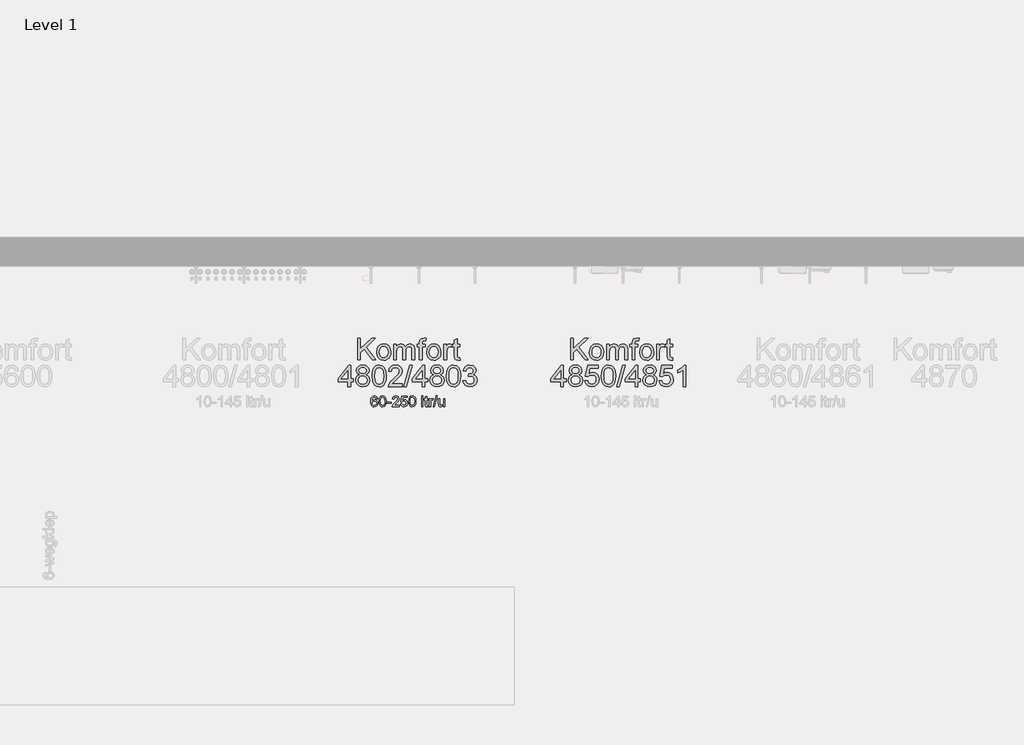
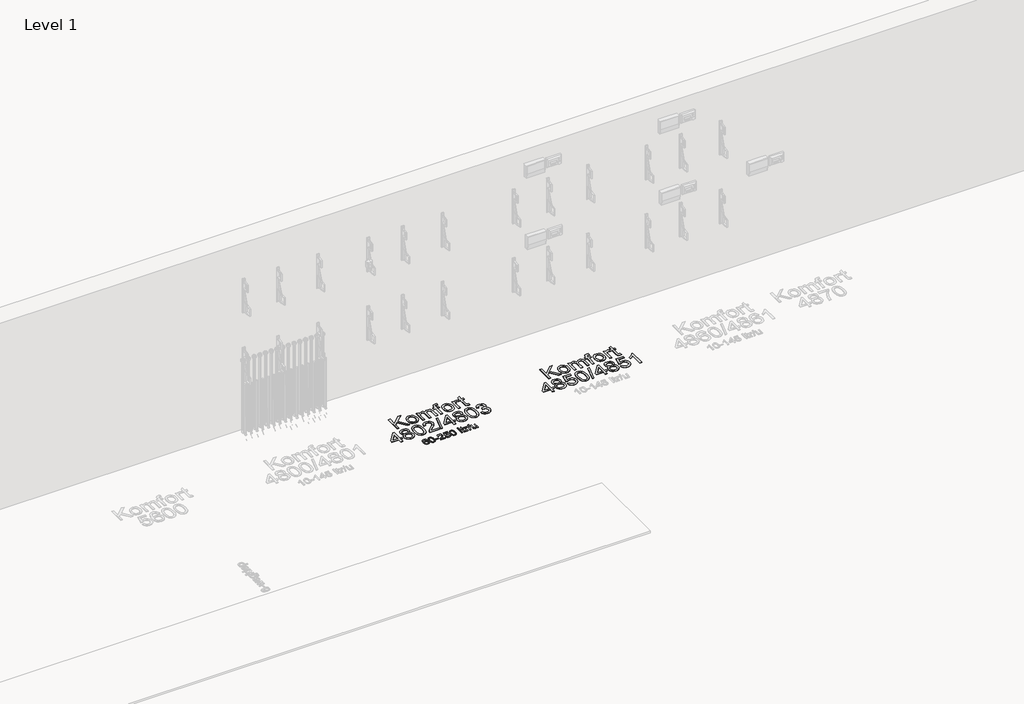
# One storey, part 23 of 34: 3 proxies.
"""IFC4 building model written with IfcOpenShell, lengths in millimetres."""

import ifcopenshell
import ifcopenshell.guid

model = None  # the IFC model being written
_history = None  # IfcOwnerHistory: only IFC2X3 demands one
_inside = {}  # id of a spatial element -> (the spatial element, [elements in it])
_under = {}  # id of a project, library or spatial element -> (it, [spatial elements below it])
_declared = {}  # id of a project -> (the project, [libraries it declares])
_typed = {}  # id of a type object -> (the type object, [elements of that type])
_made_of = {}  # id of a material, layer set ... -> (it, [elements and type objects made of it])


def new_model(schema):
    """Start an empty IFC model of exactly this schema.

    Asked for "IFC4X3", IfcOpenShell would pick the latest addendum, in which some entities
    have other attributes; the version numbers below select the first issue.
    IFC2X3 requires an IfcOwnerHistory on every rooted entity: one is made here for all.
    """
    global model, _history
    if schema == "IFC4X3":
        model = ifcopenshell.file(schema_version=(4, 3, 0, 0))
    else:
        model = ifcopenshell.file(schema=schema)
    _inside.clear()
    _under.clear()
    _declared.clear()
    _typed.clear()
    _made_of.clear()
    _history = None
    if model.schema == "IFC2X3":
        org = make("IfcOrganization", Name="unknown")
        user = make(
            "IfcPersonAndOrganization",
            ThePerson=make("IfcPerson", FamilyName="unknown"),
            TheOrganization=org,
        )
        app = make(
            "IfcApplication",
            ApplicationDeveloper=org,
            Version="unknown",
            ApplicationFullName="unknown",
            ApplicationIdentifier="unknown",
        )
        _history = make(
            "IfcOwnerHistory",
            OwningUser=user,
            OwningApplication=app,
            ChangeAction="ADDED",
            CreationDate=0,
        )
    return model


def make(cls, **values):
    """One entity of the class cls with the attributes given. An attribute that is None is left unset."""
    return model.create_entity(
        cls, **{name: value for name, value in values.items() if value is not None}
    )


def rooted(cls, **values):
    """An entity with a GlobalId (a new one), such as an element, a storey or a relation."""
    return make(cls, GlobalId=ifcopenshell.guid.new(), OwnerHistory=_history, **values)


def si_unit(unit_type, name, prefix=None):
    """IfcSIUnit, for example si_unit("LENGTHUNIT", "METRE", prefix="MILLI")."""
    return make("IfcSIUnit", UnitType=unit_type, Prefix=prefix, Name=name)


def assignment(units):
    """IfcUnitAssignment: the units of a project."""
    return None if units is None else make("IfcUnitAssignment", Units=units)


def point(xyz):
    """IfcCartesianPoint."""
    return None if xyz is None else make("IfcCartesianPoint", Coordinates=xyz)


def direction(xyz):
    """IfcDirection."""
    return None if xyz is None else make("IfcDirection", DirectionRatios=xyz)


def frame(location, z_axis=None, x_axis=None):
    """IfcAxis2Placement3D, a coordinate frame: its origin and axes. An axis left out is left unset."""
    return make(
        "IfcAxis2Placement3D",
        Location=point(location),
        Axis=direction(z_axis),
        RefDirection=direction(x_axis),
    )


def origin():
    """The frame at (0, 0, 0) with its axes left unset."""
    return frame((0.0, 0.0, 0.0))


def origin_with_axes():
    """The frame at (0, 0, 0) with the z axis (0, 0, 1) and the x axis (1, 0, 0) written out."""
    return frame((0.0, 0.0, 0.0), z_axis=(0.0, 0.0, 1.0), x_axis=(1.0, 0.0, 0.0))


def place(relative_to, where):
    """IfcLocalPlacement: puts the frame where relative to a parent placement (None: the world)."""
    return make(
        "IfcLocalPlacement", PlacementRelTo=relative_to, RelativePlacement=where
    )


def context(
    kind, dimensions, precision=None, world=None, true_north=None, identifier=None
):
    """IfcGeometricRepresentationContext, for example the 3D "Model" context."""
    return make(
        "IfcGeometricRepresentationContext",
        ContextIdentifier=identifier,
        ContextType=kind,
        CoordinateSpaceDimension=dimensions,
        Precision=precision,
        WorldCoordinateSystem=world,
        TrueNorth=true_north,
    )


def project(units=None, contexts=None):
    """IfcProject with its units and contexts."""
    return rooted(
        "IfcProject",
        Name="project",
        RepresentationContexts=contexts,
        UnitsInContext=assignment(units),
    )


def spatial(cls, under=None, at=None, **own):
    """A site, building, storey or space (cls), placed at a placement, below another one or the project."""
    s = rooted(cls, ObjectPlacement=at, **own)
    if under is not None:
        _under.setdefault(under.id(), (under, []))[1].append(s)
    return s


def polyline(points):
    """IfcPolyline through the points."""
    return make("IfcPolyline", Points=[point(p) for p in points])


def outline(outer, holes=None, kind="AREA"):
    """IfcArbitraryClosedProfileDef: a profile drawn as a closed curve; with holes, ...WithVoids."""
    if holes is None:
        return make("IfcArbitraryClosedProfileDef", ProfileType=kind, OuterCurve=outer)
    return make(
        "IfcArbitraryProfileDefWithVoids",
        ProfileType=kind,
        OuterCurve=outer,
        InnerCurves=holes,
    )


def extrude(swept, where, along, depth):
    """IfcExtrudedAreaSolid: the profile swept, set in the frame where, extruded along a direction by depth."""
    return make(
        "IfcExtrudedAreaSolid",
        SweptArea=swept,
        Position=where,
        ExtrudedDirection=direction(along),
        Depth=depth,
    )


def shape(context_of_items, identifier, shape_type, items):
    """IfcShapeRepresentation: the items that make up one representation, for example the "Body"."""
    return make(
        "IfcShapeRepresentation",
        ContextOfItems=context_of_items,
        RepresentationIdentifier=identifier,
        RepresentationType=shape_type,
        Items=items,
    )


def made_of(thing, what):
    """Note that an element or type object is made of a material, layer set ...; save() writes the relation."""
    if what is not None:
        _made_of.setdefault(what.id(), (what, []))[1].append(thing)
    return thing


def element(
    cls,
    number,
    at=None,
    inside=None,
    cuts=None,
    type_object=None,
    material=None,
    context=None,
    identifier="Body",
    shape_type=None,
    held_by="IfcProductDefinitionShape",
    body=None,
    shapes=None,
    **own,
):
    """One element of the class cls, such as IfcWall. Its Tag is "e" and its number.

    at: its placement. inside: the storey or other place that contains it. cuts: it is an
    opening in that element (IfcRelVoidsElement). A single representation is given by context,
    identifier, shape_type and body (its items); several are given by shapes. held_by: the class
    of the entity that holds the representations. save() writes the other relations.
    """
    e = rooted(cls, Tag="e%d" % number, ObjectPlacement=at, **own)
    if body is not None:
        shapes = [shape(context, identifier, shape_type, body)]
    if shapes is not None:
        e.Representation = make(held_by, Representations=shapes)
    if inside is not None:
        _inside.setdefault(inside.id(), (inside, []))[1].append(e)
    if cuts is not None:
        rooted(
            "IfcRelVoidsElement", RelatingBuildingElement=cuts, RelatedOpeningElement=e
        )
    if type_object is not None:
        _typed.setdefault(type_object.id(), (type_object, []))[1].append(e)
    return made_of(e, material)


def aggregate(whole, parts):
    """IfcRelAggregates: a whole, such as a stair, and the parts it consists of."""
    return rooted("IfcRelAggregates", RelatingObject=whole, RelatedObjects=parts)


def save(model, path):
    """Write the relations noted so far, then the file.

    IfcRelAggregates (storeys below a building ...), IfcRelContainedInSpatialStructure (elements
    in a storey), IfcRelDefinesByType, IfcRelAssociatesMaterial and IfcRelDeclares: one each for
    every whole, place, type object, material and project.
    """
    for whole, parts in _under.values():
        aggregate(whole, parts)
    for where, things in _inside.values():
        rooted(
            "IfcRelContainedInSpatialStructure",
            RelatedElements=things,
            RelatingStructure=where,
        )
    for kind, things in _typed.values():
        rooted("IfcRelDefinesByType", RelatedObjects=things, RelatingType=kind)
    for what, things in _made_of.values():
        rooted("IfcRelAssociatesMaterial", RelatedObjects=things, RelatingMaterial=what)
    for by, libraries in _declared.values():
        rooted("IfcRelDeclares", RelatingContext=by, RelatedDefinitions=libraries)
    model.write(path)


model = new_model("IFC4")

# Units and contexts
model_context = context("Model", 3, world=origin())
ifc_project = project(units=[si_unit("LENGTHUNIT", "METRE", prefix="MILLI")], contexts=[model_context])

# Site, building, storey
site = spatial("IfcSite", under=ifc_project)
building = spatial("IfcBuilding", under=site)
storey = spatial("IfcBuildingStorey", under=building, Name="Level 1", Elevation=0.0)

# Proxies
placement = place(None, origin())
element("IfcBuildingElementProxy", 1, Name="DN", ObjectType="DN", at=placement, inside=storey, context=model_context, shape_type="SweptSolid", body=[
    extrude(outline(polyline([(-9289.8719097, 6682.2887399), (-9299.1026789, 6681.1348937), (-9302.6002751, 6688.833211), (-9311.8490732, 6692.6733553), (-9320.1784001, 6690.4377784), (-9326.4794818, 6682.0453505), (-9329.1026789, 6665.5940284), (-9320.9626549, 6672.958812), (-9310.8755155, 6675.365663), (-9302.3478712, 6673.7205308), (-9295.1904193, 6668.7851341), (-9290.3361525, 6661.2445692), (-9288.7180636, 6651.7839322), (-9291.7649386, 6639.0465524), (-9300.148352, 6630.0321293), (-9312.2457078, 6626.9041245), (-9322.7182138, 6628.9774418), (-9331.0588087, 6635.1973937), (-9336.5147883, 6646.176961), (-9338.3334482, 6662.5291245), (-9336.3142174, 6680.9140404), (-9330.2565251, 6693.4846534), (-9321.9857919, 6699.7992567), (-9311.2721501, 6701.9041245), (-9296.6868136, 6696.693788), (-9289.8719097, 6682.2887399)]), holes=[polyline([(-9329.1026789, 6651.928163), (-9326.9662607, 6643.9323697), (-9321.2871741, 6638.1270812), (-9312.9668616, 6636.1348937), (-9302.086453, 6640.2634995), (-9297.9488328, 6651.4774418), (-9302.0323664, 6662.2136197), (-9313.3454674, 6666.1348937), (-9324.5143376, 6662.2136197), (-9329.1026789, 6651.928163)])]), origin_with_axes(), (0.0, 0.0, 1.0), 5.0),
    extrude(outline(polyline([(-9280.6411405, 6664.3860957), (-9277.9277991, 6685.6330909), (-9269.8689049, 6697.8836918), (-9256.4103712, 6701.9041245), (-9245.6291212, 6699.5243168), (-9238.1832078, 6692.6643409), (-9233.8562847, 6681.7388601), (-9232.179602, 6664.3860957), (-9234.8659001, 6643.2292447), (-9242.8977511, 6630.9516005), (-9256.4103712, 6626.9041245), (-9266.0017174, 6628.661937), (-9273.2853712, 6633.9353745), (-9278.8021982, 6646.4248577), (-9280.6411405, 6664.3860957)]), holes=[polyline([(-9271.4103712, 6664.4041245), (-9270.3286405, 6649.8841425), (-9267.0834482, 6641.4804466), (-9256.4103712, 6636.1348937), (-9245.7372943, 6641.4984755), (-9242.492102, 6649.9066786), (-9241.4103712, 6664.4041245), (-9245.5930636, 6687.0663841), (-9256.5185443, 6692.6733553), (-9266.9392174, 6687.7334514), (-9270.2925828, 6678.7370572), (-9271.4103712, 6664.4041245)])]), origin_with_axes(), (0.0, 0.0, 1.0), 5.0),
    extrude(outline(polyline([(-9226.4103712, 6649.9810476), (-9226.4103712, 6659.2118168), (-9197.5642174, 6659.2118168), (-9197.5642174, 6649.9810476), (-9226.4103712, 6649.9810476)])), origin_with_axes(), (0.0, 0.0, 1.0), 5.0),
    extrude(outline(polyline([(-9142.179602, 6637.2887399), (-9142.179602, 6628.0579707), (-9190.6411405, 6628.0579707), (-9189.6495539, 6634.4221534), (-9184.0425828, 6644.2208312), (-9172.4860924, 6654.9209514), (-9156.5485924, 6670.2995572), (-9152.5642174, 6680.756288), (-9156.3232318, 6689.2208312), (-9166.1399386, 6692.6733553), (-9176.3713087, 6689.301961), (-9180.2565251, 6679.9810476), (-9189.4872943, 6681.1348937), (-9187.2494638, 6690.0636798), (-9182.4109722, 6696.5856149), (-9165.9416212, 6701.9041245), (-9156.5914109, 6700.4257591), (-9149.4181837, 6695.990663), (-9144.8546321, 6689.365062), (-9143.3334482, 6681.3151822), (-9144.9740732, 6672.5621774), (-9150.4277991, 6663.5116966), (-9163.6519578, 6650.864461), (-9174.2709482, 6641.9852543), (-9178.4356116, 6637.2887399), (-9142.179602, 6637.2887399)])), origin_with_axes(), (0.0, 0.0, 1.0), 5.0),
    extrude(outline(polyline([(-9132.9488328, 6647.6733553), (-9123.7180636, 6648.8272014), (-9119.0666212, 6639.3169851), (-9109.4211886, 6636.1348937), (-9097.8466693, 6640.5609755), (-9093.7180636, 6652.3067687), (-9097.5852511, 6663.2683072), (-9109.2769578, 6667.2887399), (-9117.3809241, 6665.6841726), (-9122.5642174, 6661.5195091), (-9131.7949866, 6662.6733553), (-9123.7180636, 6700.7502784), (-9087.9488328, 6700.7502784), (-9087.9488328, 6691.5195091), (-9116.2541212, 6691.5195091), (-9120.2024386, 6671.1829707), (-9106.6988328, 6676.5195091), (-9098.0742835, 6674.8653625), (-9090.914578, 6669.9029226), (-9086.0941152, 6662.3398216), (-9084.4872943, 6652.8836918), (-9090.2745539, 6635.756288), (-9098.585852, 6629.1171654), (-9109.4572462, 6626.9041245), (-9118.5235023, 6628.3261498), (-9125.7463087, 6632.5922255), (-9130.6974806, 6639.2065584), (-9132.9488328, 6647.6733553)])), origin_with_axes(), (0.0, 0.0, 1.0), 5.0),
    extrude(outline(polyline([(-9076.4103712, 6664.3860957), (-9073.6970299, 6685.6330909), (-9065.6381357, 6697.8836918), (-9052.179602, 6701.9041245), (-9041.398352, 6699.5243168), (-9033.9524386, 6692.6643409), (-9029.6255155, 6681.7388601), (-9027.9488328, 6664.3860957), (-9030.6351309, 6643.2292447), (-9038.6669818, 6630.9516005), (-9052.179602, 6626.9041245), (-9061.7709482, 6628.661937), (-9069.054602, 6633.9353745), (-9074.5714289, 6646.4248577), (-9076.4103712, 6664.3860957)]), holes=[polyline([(-9067.179602, 6664.4041245), (-9066.0978712, 6649.8841425), (-9062.8526789, 6641.4804466), (-9052.179602, 6636.1348937), (-9041.5065251, 6641.4984755), (-9038.2613328, 6649.9066786), (-9037.179602, 6664.4041245), (-9041.3622943, 6687.0663841), (-9052.2877751, 6692.6733553), (-9062.7084482, 6687.7334514), (-9066.0618136, 6678.7370572), (-9067.179602, 6664.4041245)])]), origin_with_axes(), (0.0, 0.0, 1.0), 5.0),
    extrude(outline(polyline([(-8988.7180636, 6628.0579707), (-8988.7180636, 6701.9041245), (-8979.4872943, 6701.9041245), (-8979.4872943, 6628.0579707), (-8988.7180636, 6628.0579707)])), origin_with_axes(), (0.0, 0.0, 1.0), 5.0),
    extrude(outline(polyline([(-8946.0257559, 6635.756288), (-8944.8719097, 6627.787538), (-8951.7769578, 6626.9041245), (-8959.5113328, 6628.4365764), (-8963.3695059, 6632.4570091), (-8964.4872943, 6642.9317687), (-8964.4872943, 6673.0579707), (-8971.4103712, 6673.0579707), (-8971.4103712, 6682.2887399), (-8964.4872943, 6682.2887399), (-8964.4872943, 6695.4678264), (-8955.2565251, 6700.8945091), (-8955.2565251, 6682.2887399), (-8946.0257559, 6682.2887399), (-8946.0257559, 6673.0579707), (-8955.2565251, 6673.0579707), (-8955.2565251, 6643.2022014), (-8954.7697462, 6638.442586), (-8953.1922222, 6636.7568889), (-8950.0461886, 6636.1348937), (-8946.0257559, 6635.756288)])), origin_with_axes(), (0.0, 0.0, 1.0), 5.0),
    extrude(outline(polyline([(-8936.7949866, 6628.0579707), (-8936.7949866, 6682.2887399), (-8928.7180636, 6682.2887399), (-8928.7180636, 6674.2659034), (-8922.9848905, 6681.6577303), (-8917.2156597, 6683.442586), (-8907.9488328, 6680.5940284), (-8911.0317655, 6672.318788), (-8917.5221501, 6674.2118168), (-8922.7415011, 6672.3909034), (-8926.0678232, 6667.3428264), (-8927.5642174, 6656.5615764), (-8927.5642174, 6628.0579707), (-8936.7949866, 6628.0579707)])), origin_with_axes(), (0.0, 0.0, 1.0), 5.0),
    extrude(outline(polyline([(-8909.1026789, 6628.0579707), (-8888.3334482, 6701.9041245), (-8880.0041212, 6701.9041245), (-8900.773352, 6628.0579707), (-8909.1026789, 6628.0579707)])), origin_with_axes(), (0.0, 0.0, 1.0), 5.0),
    extrude(outline(polyline([(-8838.7180636, 6628.0579707), (-8838.7180636, 6637.3788841), (-8845.9476309, 6629.5228144), (-8855.3767174, 6626.9041245), (-8864.0576068, 6628.7430668), (-8870.0431837, 6633.3584514), (-8872.7925828, 6640.1553264), (-8873.3334482, 6648.7370572), (-8873.3334482, 6682.2887399), (-8864.1026789, 6682.2887399), (-8864.1026789, 6653.0820091), (-8863.5437847, 6643.6709514), (-8859.8929434, 6638.1451101), (-8853.0149386, 6636.1348937), (-8845.3076068, 6638.1901822), (-8840.2144578, 6643.7881389), (-8838.7180636, 6654.0735957), (-8838.7180636, 6682.2887399), (-8829.4872943, 6682.2887399), (-8829.4872943, 6628.0579707), (-8838.7180636, 6628.0579707)])), origin_with_axes(), (0.0, 0.0, 1.0), 5.0),
])
element("IfcBuildingElementProxy", 2, Name="type", ObjectType="type", at=placement, inside=storey, context=model_context, shape_type="SweptSolid", body=[
    extrude(outline(polyline([(-9426.6026789, 6948.0579707), (-9426.6026789, 7095.7502784), (-9408.1411405, 7095.7502784), (-9408.1411405, 7023.4546053), (-9332.4199866, 7095.7502784), (-9306.6026789, 7095.7502784), (-9370.1723905, 7035.0291245), (-9304.2949866, 6948.0579707), (-9326.867102, 6948.0579707), (-9383.2613328, 7022.553163), (-9408.1411405, 6998.8272014), (-9408.1411405, 6948.0579707), (-9426.6026789, 6948.0579707)])), origin_with_axes(), (0.0, 0.0, 1.0), 5.0),
    extrude(outline(polyline([(-9297.3719097, 7002.2887399), (-9293.3785203, 7028.4395812), (-9281.398352, 7046.8199899), (-9266.5966693, 7055.8253985), (-9248.8743136, 7058.8272014), (-9229.4797823, 7055.1718529), (-9213.9884962, 7044.2058072), (-9203.8337487, 7026.794449), (-9200.4488328, 7003.803163), (-9201.945227, 6985.1523216), (-9206.4344097, 6970.9546053), (-9213.7856717, 6960.3220933), (-9223.8683039, 6952.3668649), (-9235.843965, 6947.404425), (-9248.8743136, 6945.7502784), (-9268.5032198, 6949.3921053), (-9283.976477, 6960.317586), (-9294.0230515, 6978.0940284), (-9297.3719097, 7002.2887399)]), holes=[polyline([(-9278.9103712, 7002.3247976), (-9276.773953, 6985.6165644), (-9270.3646982, 6973.7130187), (-9260.7192655, 6966.5871173), (-9248.8743136, 6964.2118168), (-9237.0834482, 6966.6006389), (-9227.4560443, 6973.7671053), (-9221.0467895, 6985.8284034), (-9218.9103712, 7002.9017207), (-9221.0603112, 7019.123175), (-9227.5101309, 7030.864461), (-9237.1510563, 7037.9903625), (-9248.8743136, 7040.365663), (-9260.7192655, 7037.9993769), (-9270.3646982, 7030.9005187), (-9276.773953, 7019.0240163), (-9278.9103712, 7002.3247976)])]), origin_with_axes(), (0.0, 0.0, 1.0), 5.0),
    extrude(outline(polyline([(-9179.679602, 6948.0579707), (-9179.679602, 7056.5195091), (-9161.2180636, 7056.5195091), (-9161.2180636, 7038.6709514), (-9148.5257559, 7053.2923457), (-9130.460852, 7058.8272014), (-9120.1934241, 7057.4164442), (-9111.9632559, 7053.1841726), (-9101.7949866, 7037.3728745), (-9087.3899386, 7053.4636197), (-9069.1988328, 7058.8272014), (-9055.3211285, 7056.5961317), (-9045.0582078, 7049.9029226), (-9038.7165612, 7038.5672856), (-9036.6026789, 7022.4089322), (-9036.6026789, 6948.0579707), (-9055.0642174, 6948.0579707), (-9055.0642174, 7014.4762399), (-9056.7769578, 7029.8909034), (-9062.9788809, 7037.4810476), (-9073.5257559, 7040.365663), (-9083.5272583, 7038.5177062), (-9091.6808039, 7032.973836), (-9097.1029794, 7023.3554466), (-9098.9103712, 7009.2839322), (-9098.9103712, 6948.0579707), (-9117.3719097, 6948.0579707), (-9117.3719097, 7016.5315284), (-9121.6447462, 7034.4161437), (-9127.2832679, 7038.8782832), (-9135.6531597, 7040.365663), (-9149.3190251, 7036.3993168), (-9158.4055636, 7024.7887399), (-9161.2180636, 7002.7574899), (-9161.2180636, 6948.0579707), (-9179.679602, 6948.0579707)])), origin_with_axes(), (0.0, 0.0, 1.0), 5.0),
    extrude(outline(polyline([(-9004.2949866, 6948.0579707), (-9004.2949866, 7038.0579707), (-9020.4488328, 7038.0579707), (-9020.4488328, 7056.5195091), (-9004.2949866, 7056.5195091), (-9004.2949866, 7067.4449899), (-9002.3478712, 7082.8416245), (-8992.9007559, 7093.8392207), (-8974.2949866, 7098.0579707), (-8957.4560443, 7096.0387399), (-8960.1603712, 7078.7310476), (-8970.7973905, 7079.5964322), (-8982.4259962, 7076.5315284), (-8985.8334482, 7065.1012399), (-8985.8334482, 7056.5195091), (-8965.0642174, 7056.5195091), (-8965.0642174, 7038.0579707), (-8985.8334482, 7038.0579707), (-8985.8334482, 6948.0579707), (-9004.2949866, 6948.0579707)])), origin_with_axes(), (0.0, 0.0, 1.0), 5.0),
    extrude(outline(polyline([(-8953.5257559, 7002.2887399), (-8949.5323664, 7028.4395812), (-8937.5521982, 7046.8199899), (-8922.7505155, 7055.8253985), (-8905.0281597, 7058.8272014), (-8885.6336285, 7055.1718529), (-8870.1423424, 7044.2058072), (-8859.9875948, 7026.794449), (-8856.6026789, 7003.803163), (-8858.0990732, 6985.1523216), (-8862.5882559, 6970.9546053), (-8869.9395179, 6960.3220933), (-8880.0221501, 6952.3668649), (-8891.9978112, 6947.404425), (-8905.0281597, 6945.7502784), (-8924.657066, 6949.3921053), (-8940.1303232, 6960.317586), (-8950.1768977, 6978.0940284), (-8953.5257559, 7002.2887399)]), holes=[polyline([(-8935.0642174, 7002.3247976), (-8932.9277991, 6985.6165644), (-8926.5185443, 6973.7130187), (-8916.8731116, 6966.5871173), (-8905.0281597, 6964.2118168), (-8893.2372943, 6966.6006389), (-8883.6098905, 6973.7671053), (-8877.2006357, 6985.8284034), (-8875.0642174, 7002.9017207), (-8877.2141573, 7019.123175), (-8883.663977, 7030.864461), (-8893.3049025, 7037.9903625), (-8905.0281597, 7040.365663), (-8916.8731116, 7037.9993769), (-8926.5185443, 7030.9005187), (-8932.9277991, 7019.0240163), (-8935.0642174, 7002.3247976)])]), origin_with_axes(), (0.0, 0.0, 1.0), 5.0),
    extrude(outline(polyline([(-8835.8334482, 6948.0579707), (-8835.8334482, 7056.5195091), (-8819.679602, 7056.5195091), (-8819.679602, 7040.473836), (-8808.2132559, 7055.2574899), (-8796.6747943, 7058.8272014), (-8778.1411405, 7053.130086), (-8784.3070059, 7036.5796053), (-8797.2877751, 7040.365663), (-8807.726477, 7036.723836), (-8814.3791212, 7026.6276822), (-8817.3719097, 7005.0651822), (-8817.3719097, 6948.0579707), (-8835.8334482, 6948.0579707)])), origin_with_axes(), (0.0, 0.0, 1.0), 5.0),
    extrude(outline(polyline([(-8727.3719097, 6963.4546053), (-8725.0642174, 6947.5171053), (-8738.8743136, 6945.7502784), (-8754.3430636, 6948.8151822), (-8762.0594097, 6956.8560476), (-8764.2949866, 6977.8055668), (-8764.2949866, 7038.0579707), (-8778.1411405, 7038.0579707), (-8778.1411405, 7056.5195091), (-8764.2949866, 7056.5195091), (-8764.2949866, 7082.8776822), (-8745.8334482, 7093.7310476), (-8745.8334482, 7056.5195091), (-8727.3719097, 7056.5195091), (-8727.3719097, 7038.0579707), (-8745.8334482, 7038.0579707), (-8745.8334482, 6978.3464322), (-8744.8598905, 6968.8272014), (-8741.7048424, 6965.4558072), (-8735.4127751, 6964.2118168), (-8727.3719097, 6963.4546053)])), origin_with_axes(), (0.0, 0.0, 1.0), 5.0),
    extrude(outline(polyline([(-9494.679602, 6765.7502784), (-9494.679602, 6800.365663), (-9561.6026789, 6800.365663), (-9561.6026789, 6818.8272014), (-9490.0642174, 6911.1348937), (-9476.2180636, 6911.1348937), (-9476.2180636, 6818.8272014), (-9457.7565251, 6818.8272014), (-9457.7565251, 6800.365663), (-9476.2180636, 6800.365663), (-9476.2180636, 6765.7502784), (-9494.679602, 6765.7502784)]), holes=[polyline([(-9494.679602, 6818.8272014), (-9494.679602, 6875.8704707), (-9538.8863328, 6818.8272014), (-9494.679602, 6818.8272014)])]), origin_with_axes(), (0.0, 0.0, 1.0), 5.0),
    extrude(outline(polyline([(-9414.7036405, 6847.0964322), (-9431.5245539, 6858.5627784), (-9436.9872943, 6876.411336), (-9434.0125347, 6890.8434274), (-9425.0882559, 6902.7695091), (-9411.2150587, 6910.7743168), (-9393.3935443, 6913.442586), (-9375.4638568, 6910.7112159), (-9361.4103712, 6902.5171053), (-9352.3238328, 6890.4017207), (-9349.2949866, 6875.9065284), (-9354.6856116, 6858.5086918), (-9371.0377751, 6847.0964322), (-9359.6750948, 6841.2415644), (-9351.4043616, 6832.6192687), (-9346.3607919, 6821.6442086), (-9344.679602, 6808.7310476), (-9348.0149386, 6791.0808072), (-9358.0209482, 6776.4954707), (-9373.4716693, 6766.7058072), (-9393.1411405, 6763.442586), (-9412.8106116, 6766.7193288), (-9428.2613328, 6776.5495572), (-9438.2673424, 6791.2746173), (-9441.6026789, 6809.2358553), (-9439.8538809, 6822.6493168), (-9434.6074866, 6833.6829707), (-9426.1339289, 6841.958211), (-9414.7036405, 6847.0964322)]), holes=[polyline([(-9418.5257559, 6875.8704707), (-9416.8896381, 6867.8115764), (-9411.9812847, 6861.3752784), (-9403.9449265, 6857.1565284), (-9392.9247943, 6855.7502784), (-9382.1615732, 6857.1475139), (-9374.2469097, 6861.3392207), (-9369.3791212, 6867.5591726), (-9367.7565251, 6875.0411437), (-9369.4332078, 6882.8070692), (-9374.4632559, 6889.2298457), (-9382.4860924, 6893.5432471), (-9393.1411405, 6894.9810476), (-9403.8637967, 6893.5747976), (-9411.8731116, 6889.3560476), (-9416.8625948, 6883.1721534), (-9418.5257559, 6875.8704707)]), polyline([(-9423.1411405, 6809.8848937), (-9420.0582078, 6795.9846534), (-9409.1507559, 6785.5820091), (-9392.9969097, 6781.9041245), (-9380.4308039, 6783.8377183), (-9371.0017174, 6789.6384995), (-9365.1062847, 6798.4230548), (-9363.1411405, 6809.3079707), (-9365.1693857, 6820.3776822), (-9371.2541212, 6829.3560476), (-9380.8995539, 6835.3055668), (-9393.6098905, 6837.2887399), (-9406.000215, 6835.3326101), (-9415.3346501, 6829.4642207), (-9421.1895179, 6820.6571293), (-9423.1411405, 6809.8848937)])]), origin_with_axes(), (0.0, 0.0, 1.0), 5.0),
    extrude(outline(polyline([(-9328.5257559, 6838.4065284), (-9327.1690852, 6862.0468529), (-9323.0990732, 6880.9005187), (-9316.3562847, 6895.2559875), (-9306.9812847, 6905.4017207), (-9294.906465, 6911.4323697), (-9280.0642174, 6913.442586), (-9258.5017174, 6908.6829707), (-9243.6098905, 6894.9630187), (-9234.9560443, 6873.1120572), (-9231.6026789, 6838.4065284), (-9232.945828, 6814.9014202), (-9236.9752751, 6796.0928264), (-9243.6774987, 6781.723836), (-9253.038977, 6771.537538), (-9265.14084, 6765.466324), (-9280.0642174, 6763.442586), (-9299.2469097, 6766.958211), (-9313.8142174, 6777.505086), (-9324.8478712, 6802.4840524), (-9328.5257559, 6838.4065284)]), holes=[polyline([(-9310.0642174, 6838.442586), (-9307.9007559, 6809.4026221), (-9301.4103712, 6792.5952303), (-9291.7469097, 6784.576901), (-9280.0642174, 6781.9041245), (-9268.3815251, 6784.5859154), (-9258.7180636, 6792.631288), (-9252.2276789, 6809.4476942), (-9250.0642174, 6838.442586), (-9252.1555636, 6866.8290043), (-9258.429602, 6883.7671053), (-9268.0750347, 6892.177562), (-9280.2805636, 6894.9810476), (-9291.8370539, 6892.5110957), (-9301.1219097, 6885.1012399), (-9307.8286405, 6867.1084514), (-9310.0642174, 6838.442586)])]), origin_with_axes(), (0.0, 0.0, 1.0), 5.0),
    extrude(outline(polyline([(-9120.8334482, 6784.2118168), (-9120.8334482, 6765.7502784), (-9217.7565251, 6765.7502784), (-9215.773352, 6778.4786437), (-9204.5594097, 6798.0759995), (-9181.4464289, 6819.4762399), (-9149.5714289, 6850.2334514), (-9143.5948664, 6860.834413), (-9141.6026789, 6871.146913), (-9143.4821862, 6880.3912038), (-9149.1207078, 6888.0759995), (-9157.7880756, 6893.2547856), (-9168.7541212, 6894.9810476), (-9180.2700467, 6893.2953505), (-9189.2168616, 6888.2382591), (-9194.9905996, 6880.2064082), (-9196.9872943, 6869.5964322), (-9215.4488328, 6871.9041245), (-9210.9731717, 6889.7616966), (-9201.2961886, 6902.8055668), (-9186.922691, 6910.7833312), (-9168.3574866, 6913.442586), (-9149.657066, 6910.4858553), (-9135.3106116, 6901.615663), (-9126.1835083, 6888.364461), (-9123.1411405, 6872.2647014), (-9126.4223905, 6854.7586918), (-9137.3298424, 6836.6577303), (-9163.7781597, 6811.3632591), (-9185.0161405, 6793.6048457), (-9193.3454674, 6784.2118168), (-9120.8334482, 6784.2118168)])), origin_with_axes(), (0.0, 0.0, 1.0), 5.0),
    extrude(outline(polyline([(-9111.6026789, 6765.7502784), (-9070.0642174, 6913.442586), (-9053.4055636, 6913.442586), (-9094.9440251, 6765.7502784), (-9111.6026789, 6765.7502784)])), origin_with_axes(), (0.0, 0.0, 1.0), 5.0),
    extrude(outline(polyline([(-8984.679602, 6765.7502784), (-8984.679602, 6800.365663), (-9051.6026789, 6800.365663), (-9051.6026789, 6818.8272014), (-8980.0642174, 6911.1348937), (-8966.2180636, 6911.1348937), (-8966.2180636, 6818.8272014), (-8947.7565251, 6818.8272014), (-8947.7565251, 6800.365663), (-8966.2180636, 6800.365663), (-8966.2180636, 6765.7502784), (-8984.679602, 6765.7502784)]), holes=[polyline([(-8984.679602, 6818.8272014), (-8984.679602, 6875.8704707), (-9028.8863328, 6818.8272014), (-8984.679602, 6818.8272014)])]), origin_with_axes(), (0.0, 0.0, 1.0), 5.0),
    extrude(outline(polyline([(-8904.7036405, 6847.0964322), (-8921.5245539, 6858.5627784), (-8926.9872943, 6876.411336), (-8924.0125347, 6890.8434274), (-8915.0882559, 6902.7695091), (-8901.2150587, 6910.7743168), (-8883.3935443, 6913.442586), (-8865.4638568, 6910.7112159), (-8851.4103712, 6902.5171053), (-8842.3238328, 6890.4017207), (-8839.2949866, 6875.9065284), (-8844.6856116, 6858.5086918), (-8861.0377751, 6847.0964322), (-8849.6750948, 6841.2415644), (-8841.4043616, 6832.6192687), (-8836.3607919, 6821.6442086), (-8834.679602, 6808.7310476), (-8838.0149386, 6791.0808072), (-8848.0209482, 6776.4954707), (-8863.4716693, 6766.7058072), (-8883.1411405, 6763.442586), (-8902.8106116, 6766.7193288), (-8918.2613328, 6776.5495572), (-8928.2673424, 6791.2746173), (-8931.6026789, 6809.2358553), (-8929.8538809, 6822.6493168), (-8924.6074866, 6833.6829707), (-8916.1339289, 6841.958211), (-8904.7036405, 6847.0964322)]), holes=[polyline([(-8913.1411405, 6809.8848937), (-8910.0582078, 6795.9846534), (-8899.1507559, 6785.5820091), (-8882.9969097, 6781.9041245), (-8870.4308039, 6783.8377183), (-8861.0017174, 6789.6384995), (-8855.1062847, 6798.4230548), (-8853.1411405, 6809.3079707), (-8855.1693857, 6820.3776822), (-8861.2541212, 6829.3560476), (-8870.8995539, 6835.3055668), (-8883.6098905, 6837.2887399), (-8896.000215, 6835.3326101), (-8905.3346501, 6829.4642207), (-8911.1895179, 6820.6571293), (-8913.1411405, 6809.8848937)]), polyline([(-8908.5257559, 6875.8704707), (-8906.8896381, 6867.8115764), (-8901.9812847, 6861.3752784), (-8893.9449265, 6857.1565284), (-8882.9247943, 6855.7502784), (-8872.1615732, 6857.1475139), (-8864.2469097, 6861.3392207), (-8859.3791212, 6867.5591726), (-8857.7565251, 6875.0411437), (-8859.4332078, 6882.8070692), (-8864.4632559, 6889.2298457), (-8872.4860924, 6893.5432471), (-8883.1411405, 6894.9810476), (-8893.8637967, 6893.5747976), (-8901.8731116, 6889.3560476), (-8906.8625948, 6883.1721534), (-8908.5257559, 6875.8704707)])]), origin_with_axes(), (0.0, 0.0, 1.0), 5.0),
    extrude(outline(polyline([(-8818.5257559, 6838.4065284), (-8817.1690852, 6862.0468529), (-8813.0990732, 6880.9005187), (-8806.3562847, 6895.2559875), (-8796.9812847, 6905.4017207), (-8784.906465, 6911.4323697), (-8770.0642174, 6913.442586), (-8748.5017174, 6908.6829707), (-8733.6098905, 6894.9630187), (-8724.9560443, 6873.1120572), (-8721.6026789, 6838.4065284), (-8722.945828, 6814.9014202), (-8726.9752751, 6796.0928264), (-8733.6774987, 6781.723836), (-8743.038977, 6771.537538), (-8755.14084, 6765.466324), (-8770.0642174, 6763.442586), (-8789.2469097, 6766.958211), (-8803.8142174, 6777.505086), (-8814.8478712, 6802.4840524), (-8818.5257559, 6838.4065284)]), holes=[polyline([(-8800.0642174, 6838.442586), (-8797.9007559, 6809.4026221), (-8791.4103712, 6792.5952303), (-8781.7469097, 6784.576901), (-8770.0642174, 6781.9041245), (-8758.3815251, 6784.5859154), (-8748.7180636, 6792.631288), (-8742.2276789, 6809.4476942), (-8740.0642174, 6838.442586), (-8742.1555636, 6866.8290043), (-8748.429602, 6883.7671053), (-8758.0750347, 6892.177562), (-8770.2805636, 6894.9810476), (-8781.8370539, 6892.5110957), (-8791.1219097, 6885.1012399), (-8797.8286405, 6867.1084514), (-8800.0642174, 6838.442586)])]), origin_with_axes(), (0.0, 0.0, 1.0), 5.0),
    extrude(outline(polyline([(-8705.4488328, 6804.9810476), (-8686.9872943, 6807.2887399), (-8682.8541813, 6795.6871774), (-8676.8009962, 6787.8536437), (-8668.5302631, 6783.3915043), (-8657.7445059, 6781.9041245), (-8645.0882559, 6783.9503985), (-8635.3166212, 6790.0892207), (-8629.0696261, 6799.2478745), (-8626.9872943, 6810.3536437), (-8629.0515972, 6820.8960115), (-8635.2445059, 6829.4461918), (-8644.6195059, 6835.1117567), (-8656.2300828, 6837.0002784), (-8669.1747943, 6834.9810476), (-8667.1195059, 6853.442586), (-8664.1627751, 6853.2262399), (-8643.2132559, 6858.5267207), (-8636.2360924, 6865.2514803), (-8633.9103712, 6874.8247976), (-8635.5960684, 6882.7980548), (-8640.6531597, 6889.2659034), (-8648.3695059, 6893.5522615), (-8658.0329674, 6894.9810476), (-8667.7144578, 6893.5387399), (-8675.6291212, 6889.2118168), (-8681.4073664, 6882.0002784), (-8684.679602, 6871.9041245), (-8703.1411405, 6874.2118168), (-8697.7054434, 6890.7893409), (-8688.0329674, 6903.1661437), (-8674.7997943, 6910.8734755), (-8658.6820059, 6913.442586), (-8636.4163809, 6908.3764803), (-8620.8394578, 6894.5303264), (-8615.4488328, 6875.9065284), (-8620.5690251, 6858.8872976), (-8635.7132559, 6846.6637399), (-8624.1567655, 6841.9942687), (-8615.5930636, 6834.0435476), (-8610.2925828, 6823.2442687), (-8608.5257559, 6810.0291245), (-8612.0594097, 6792.036336), (-8622.6603712, 6777.0002784), (-8638.6609722, 6766.8320091), (-8658.3935443, 6763.442586), (-8676.242102, 6766.3362159), (-8690.773352, 6775.0171053), (-8700.8785203, 6788.2953505), (-8705.4488328, 6804.9810476)])), origin_with_axes(), (0.0, 0.0, 1.0), 5.0),
])
element("IfcBuildingElementProxy", 3, Name="type", ObjectType="type", at=placement, inside=storey, context=model_context, shape_type="SweptSolid", body=[
    extrude(outline(polyline([(-7966.6026789, 6948.0579707), (-7966.6026789, 7095.7502784), (-7948.1411405, 7095.7502784), (-7948.1411405, 7023.4546053), (-7872.4199866, 7095.7502784), (-7846.6026789, 7095.7502784), (-7910.1723905, 7035.0291245), (-7844.2949866, 6948.0579707), (-7866.867102, 6948.0579707), (-7923.2613328, 7022.553163), (-7948.1411405, 6998.8272014), (-7948.1411405, 6948.0579707), (-7966.6026789, 6948.0579707)])), origin_with_axes(), (0.0, 0.0, 1.0), 5.0),
    extrude(outline(polyline([(-7837.3719097, 7002.2887399), (-7833.3785203, 7028.4395812), (-7821.398352, 7046.8199899), (-7806.5966693, 7055.8253985), (-7788.8743136, 7058.8272014), (-7769.4797823, 7055.1718529), (-7753.9884962, 7044.2058072), (-7743.8337487, 7026.794449), (-7740.4488328, 7003.803163), (-7741.945227, 6985.1523216), (-7746.4344097, 6970.9546053), (-7753.7856717, 6960.3220933), (-7763.8683039, 6952.3668649), (-7775.843965, 6947.404425), (-7788.8743136, 6945.7502784), (-7808.5032198, 6949.3921053), (-7823.976477, 6960.317586), (-7834.0230515, 6978.0940284), (-7837.3719097, 7002.2887399)]), holes=[polyline([(-7818.9103712, 7002.3247976), (-7816.773953, 6985.6165644), (-7810.3646982, 6973.7130187), (-7800.7192655, 6966.5871173), (-7788.8743136, 6964.2118168), (-7777.0834482, 6966.6006389), (-7767.4560443, 6973.7671053), (-7761.0467895, 6985.8284034), (-7758.9103712, 7002.9017207), (-7761.0603112, 7019.123175), (-7767.5101309, 7030.864461), (-7777.1510563, 7037.9903625), (-7788.8743136, 7040.365663), (-7800.7192655, 7037.9993769), (-7810.3646982, 7030.9005187), (-7816.773953, 7019.0240163), (-7818.9103712, 7002.3247976)])]), origin_with_axes(), (0.0, 0.0, 1.0), 5.0),
    extrude(outline(polyline([(-7719.679602, 6948.0579707), (-7719.679602, 7056.5195091), (-7701.2180636, 7056.5195091), (-7701.2180636, 7038.6709514), (-7688.5257559, 7053.2923457), (-7670.460852, 7058.8272014), (-7660.1934241, 7057.4164442), (-7651.9632559, 7053.1841726), (-7641.7949866, 7037.3728745), (-7627.3899386, 7053.4636197), (-7609.1988328, 7058.8272014), (-7595.3211285, 7056.5961317), (-7585.0582078, 7049.9029226), (-7578.7165612, 7038.5672856), (-7576.6026789, 7022.4089322), (-7576.6026789, 6948.0579707), (-7595.0642174, 6948.0579707), (-7595.0642174, 7014.4762399), (-7596.7769578, 7029.8909034), (-7602.9788809, 7037.4810476), (-7613.5257559, 7040.365663), (-7623.5272583, 7038.5177062), (-7631.6808039, 7032.973836), (-7637.1029794, 7023.3554466), (-7638.9103712, 7009.2839322), (-7638.9103712, 6948.0579707), (-7657.3719097, 6948.0579707), (-7657.3719097, 7016.5315284), (-7661.6447462, 7034.4161437), (-7667.2832679, 7038.8782832), (-7675.6531597, 7040.365663), (-7689.3190251, 7036.3993168), (-7698.4055636, 7024.7887399), (-7701.2180636, 7002.7574899), (-7701.2180636, 6948.0579707), (-7719.679602, 6948.0579707)])), origin_with_axes(), (0.0, 0.0, 1.0), 5.0),
    extrude(outline(polyline([(-7544.2949866, 6948.0579707), (-7544.2949866, 7038.0579707), (-7560.4488328, 7038.0579707), (-7560.4488328, 7056.5195091), (-7544.2949866, 7056.5195091), (-7544.2949866, 7067.4449899), (-7542.3478712, 7082.8416245), (-7532.9007559, 7093.8392207), (-7514.2949866, 7098.0579707), (-7497.4560443, 7096.0387399), (-7500.1603712, 7078.7310476), (-7510.7973905, 7079.5964322), (-7522.4259962, 7076.5315284), (-7525.8334482, 7065.1012399), (-7525.8334482, 7056.5195091), (-7505.0642174, 7056.5195091), (-7505.0642174, 7038.0579707), (-7525.8334482, 7038.0579707), (-7525.8334482, 6948.0579707), (-7544.2949866, 6948.0579707)])), origin_with_axes(), (0.0, 0.0, 1.0), 5.0),
    extrude(outline(polyline([(-7493.5257559, 7002.2887399), (-7489.5323664, 7028.4395812), (-7477.5521982, 7046.8199899), (-7462.7505155, 7055.8253985), (-7445.0281597, 7058.8272014), (-7425.6336285, 7055.1718529), (-7410.1423424, 7044.2058072), (-7399.9875948, 7026.794449), (-7396.6026789, 7003.803163), (-7398.0990732, 6985.1523216), (-7402.5882559, 6970.9546053), (-7409.9395179, 6960.3220933), (-7420.0221501, 6952.3668649), (-7431.9978112, 6947.404425), (-7445.0281597, 6945.7502784), (-7464.657066, 6949.3921053), (-7480.1303232, 6960.317586), (-7490.1768977, 6978.0940284), (-7493.5257559, 7002.2887399)]), holes=[polyline([(-7475.0642174, 7002.3247976), (-7472.9277991, 6985.6165644), (-7466.5185443, 6973.7130187), (-7456.8731116, 6966.5871173), (-7445.0281597, 6964.2118168), (-7433.2372943, 6966.6006389), (-7423.6098905, 6973.7671053), (-7417.2006357, 6985.8284034), (-7415.0642174, 7002.9017207), (-7417.2141573, 7019.123175), (-7423.663977, 7030.864461), (-7433.3049025, 7037.9903625), (-7445.0281597, 7040.365663), (-7456.8731116, 7037.9993769), (-7466.5185443, 7030.9005187), (-7472.9277991, 7019.0240163), (-7475.0642174, 7002.3247976)])]), origin_with_axes(), (0.0, 0.0, 1.0), 5.0),
    extrude(outline(polyline([(-7375.8334482, 6948.0579707), (-7375.8334482, 7056.5195091), (-7359.679602, 7056.5195091), (-7359.679602, 7040.473836), (-7348.2132559, 7055.2574899), (-7336.6747943, 7058.8272014), (-7318.1411405, 7053.130086), (-7324.3070059, 7036.5796053), (-7337.2877751, 7040.365663), (-7347.726477, 7036.723836), (-7354.3791212, 7026.6276822), (-7357.3719097, 7005.0651822), (-7357.3719097, 6948.0579707), (-7375.8334482, 6948.0579707)])), origin_with_axes(), (0.0, 0.0, 1.0), 5.0),
    extrude(outline(polyline([(-7267.3719097, 6963.4546053), (-7265.0642174, 6947.5171053), (-7278.8743136, 6945.7502784), (-7294.3430636, 6948.8151822), (-7302.0594097, 6956.8560476), (-7304.2949866, 6977.8055668), (-7304.2949866, 7038.0579707), (-7318.1411405, 7038.0579707), (-7318.1411405, 7056.5195091), (-7304.2949866, 7056.5195091), (-7304.2949866, 7082.8776822), (-7285.8334482, 7093.7310476), (-7285.8334482, 7056.5195091), (-7267.3719097, 7056.5195091), (-7267.3719097, 7038.0579707), (-7285.8334482, 7038.0579707), (-7285.8334482, 6978.3464322), (-7284.8598905, 6968.8272014), (-7281.7048424, 6965.4558072), (-7275.4127751, 6964.2118168), (-7267.3719097, 6963.4546053)])), origin_with_axes(), (0.0, 0.0, 1.0), 5.0),
    extrude(outline(polyline([(-8034.679602, 6765.7502784), (-8034.679602, 6800.365663), (-8101.6026789, 6800.365663), (-8101.6026789, 6818.8272014), (-8030.0642174, 6911.1348937), (-8016.2180636, 6911.1348937), (-8016.2180636, 6818.8272014), (-7997.7565251, 6818.8272014), (-7997.7565251, 6800.365663), (-8016.2180636, 6800.365663), (-8016.2180636, 6765.7502784), (-8034.679602, 6765.7502784)]), holes=[polyline([(-8034.679602, 6818.8272014), (-8034.679602, 6875.8704707), (-8078.8863328, 6818.8272014), (-8034.679602, 6818.8272014)])]), origin_with_axes(), (0.0, 0.0, 1.0), 5.0),
    extrude(outline(polyline([(-7954.7036405, 6847.0964322), (-7971.5245539, 6858.5627784), (-7976.9872943, 6876.411336), (-7974.0125347, 6890.8434274), (-7965.0882559, 6902.7695091), (-7951.2150587, 6910.7743168), (-7933.3935443, 6913.442586), (-7915.4638568, 6910.7112159), (-7901.4103712, 6902.5171053), (-7892.3238328, 6890.4017207), (-7889.2949866, 6875.9065284), (-7894.6856116, 6858.5086918), (-7911.0377751, 6847.0964322), (-7899.6750948, 6841.2415644), (-7891.4043616, 6832.6192687), (-7886.3607919, 6821.6442086), (-7884.679602, 6808.7310476), (-7888.0149386, 6791.0808072), (-7898.0209482, 6776.4954707), (-7913.4716693, 6766.7058072), (-7933.1411405, 6763.442586), (-7952.8106116, 6766.7193288), (-7968.2613328, 6776.5495572), (-7978.2673424, 6791.2746173), (-7981.6026789, 6809.2358553), (-7979.8538809, 6822.6493168), (-7974.6074866, 6833.6829707), (-7966.1339289, 6841.958211), (-7954.7036405, 6847.0964322)]), holes=[polyline([(-7958.5257559, 6875.8704707), (-7956.8896381, 6867.8115764), (-7951.9812847, 6861.3752784), (-7943.9449265, 6857.1565284), (-7932.9247943, 6855.7502784), (-7922.1615732, 6857.1475139), (-7914.2469097, 6861.3392207), (-7909.3791212, 6867.5591726), (-7907.7565251, 6875.0411437), (-7909.4332078, 6882.8070692), (-7914.4632559, 6889.2298457), (-7922.4860924, 6893.5432471), (-7933.1411405, 6894.9810476), (-7943.8637967, 6893.5747976), (-7951.8731116, 6889.3560476), (-7956.8625948, 6883.1721534), (-7958.5257559, 6875.8704707)]), polyline([(-7963.1411405, 6809.8848937), (-7960.0582078, 6795.9846534), (-7949.1507559, 6785.5820091), (-7932.9969097, 6781.9041245), (-7920.4308039, 6783.8377183), (-7911.0017174, 6789.6384995), (-7905.1062847, 6798.4230548), (-7903.1411405, 6809.3079707), (-7905.1693857, 6820.3776822), (-7911.2541212, 6829.3560476), (-7920.8995539, 6835.3055668), (-7933.6098905, 6837.2887399), (-7946.000215, 6835.3326101), (-7955.3346501, 6829.4642207), (-7961.1895179, 6820.6571293), (-7963.1411405, 6809.8848937)])]), origin_with_axes(), (0.0, 0.0, 1.0), 5.0),
    extrude(outline(polyline([(-7868.5257559, 6804.9810476), (-7850.0642174, 6807.2887399), (-7846.6747943, 6796.2055067), (-7840.7613328, 6788.2683072), (-7832.3508761, 6783.4951702), (-7821.4704674, 6781.9041245), (-7808.2372943, 6784.1171654), (-7798.3214289, 6790.756288), (-7792.1285203, 6801.0552663), (-7790.0642174, 6814.2478745), (-7791.9978112, 6826.6697495), (-7797.7985924, 6836.1709514), (-7807.5116333, 6842.2016005), (-7821.1820059, 6844.2118168), (-7837.3899386, 6841.0026822), (-7847.7565251, 6832.6733553), (-7866.2180636, 6834.9810476), (-7850.0642174, 6911.1348937), (-7778.5257559, 6911.1348937), (-7778.5257559, 6892.6733553), (-7835.1363328, 6892.6733553), (-7843.0329674, 6852.0002784), (-7829.8448664, 6860.005086), (-7816.0257559, 6862.6733553), (-7798.7766573, 6859.365062), (-7784.4572462, 6849.4401822), (-7774.8163208, 6834.3139803), (-7771.6026789, 6815.4017207), (-7774.4963087, 6796.9401822), (-7783.1771982, 6781.146913), (-7799.7997943, 6767.8686678), (-7821.5425828, 6763.442586), (-7839.6750948, 6766.2866365), (-7854.1207078, 6774.818788), (-7864.0230515, 6788.0474538), (-7868.5257559, 6804.9810476)])), origin_with_axes(), (0.0, 0.0, 1.0), 5.0),
    extrude(outline(polyline([(-7755.4488328, 6838.4065284), (-7754.0921621, 6862.0468529), (-7750.0221501, 6880.9005187), (-7743.2793616, 6895.2559875), (-7733.9043616, 6905.4017207), (-7721.8295419, 6911.4323697), (-7706.9872943, 6913.442586), (-7685.4247943, 6908.6829707), (-7670.5329674, 6894.9630187), (-7661.8791212, 6873.1120572), (-7658.5257559, 6838.4065284), (-7659.8689049, 6814.9014202), (-7663.898352, 6796.0928264), (-7670.6005756, 6781.723836), (-7679.9620539, 6771.537538), (-7692.0639169, 6765.466324), (-7706.9872943, 6763.442586), (-7726.1699866, 6766.958211), (-7740.7372943, 6777.505086), (-7751.7709482, 6802.4840524), (-7755.4488328, 6838.4065284)]), holes=[polyline([(-7736.9872943, 6838.442586), (-7734.8238328, 6809.4026221), (-7728.3334482, 6792.5952303), (-7718.6699866, 6784.576901), (-7706.9872943, 6781.9041245), (-7695.304602, 6784.5859154), (-7685.6411405, 6792.631288), (-7679.1507559, 6809.4476942), (-7676.9872943, 6838.442586), (-7679.0786405, 6866.8290043), (-7685.3526789, 6883.7671053), (-7694.9981116, 6892.177562), (-7707.2036405, 6894.9810476), (-7718.7601309, 6892.5110957), (-7728.0449866, 6885.1012399), (-7734.7517174, 6867.1084514), (-7736.9872943, 6838.442586)])]), origin_with_axes(), (0.0, 0.0, 1.0), 5.0),
    extrude(outline(polyline([(-7651.6026789, 6765.7502784), (-7610.0642174, 6913.442586), (-7593.4055636, 6913.442586), (-7634.9440251, 6765.7502784), (-7651.6026789, 6765.7502784)])), origin_with_axes(), (0.0, 0.0, 1.0), 5.0),
    extrude(outline(polyline([(-7524.679602, 6765.7502784), (-7524.679602, 6800.365663), (-7591.6026789, 6800.365663), (-7591.6026789, 6818.8272014), (-7520.0642174, 6911.1348937), (-7506.2180636, 6911.1348937), (-7506.2180636, 6818.8272014), (-7487.7565251, 6818.8272014), (-7487.7565251, 6800.365663), (-7506.2180636, 6800.365663), (-7506.2180636, 6765.7502784), (-7524.679602, 6765.7502784)]), holes=[polyline([(-7524.679602, 6818.8272014), (-7524.679602, 6875.8704707), (-7568.8863328, 6818.8272014), (-7524.679602, 6818.8272014)])]), origin_with_axes(), (0.0, 0.0, 1.0), 5.0),
    extrude(outline(polyline([(-7444.7036405, 6847.0964322), (-7461.5245539, 6858.5627784), (-7466.9872943, 6876.411336), (-7464.0125347, 6890.8434274), (-7455.0882559, 6902.7695091), (-7441.2150587, 6910.7743168), (-7423.3935443, 6913.442586), (-7405.4638568, 6910.7112159), (-7391.4103712, 6902.5171053), (-7382.3238328, 6890.4017207), (-7379.2949866, 6875.9065284), (-7384.6856116, 6858.5086918), (-7401.0377751, 6847.0964322), (-7389.6750948, 6841.2415644), (-7381.4043616, 6832.6192687), (-7376.3607919, 6821.6442086), (-7374.679602, 6808.7310476), (-7378.0149386, 6791.0808072), (-7388.0209482, 6776.4954707), (-7403.4716693, 6766.7058072), (-7423.1411405, 6763.442586), (-7442.8106116, 6766.7193288), (-7458.2613328, 6776.5495572), (-7468.2673424, 6791.2746173), (-7471.6026789, 6809.2358553), (-7469.8538809, 6822.6493168), (-7464.6074866, 6833.6829707), (-7456.1339289, 6841.958211), (-7444.7036405, 6847.0964322)]), holes=[polyline([(-7448.5257559, 6875.8704707), (-7446.8896381, 6867.8115764), (-7441.9812847, 6861.3752784), (-7433.9449265, 6857.1565284), (-7422.9247943, 6855.7502784), (-7412.1615732, 6857.1475139), (-7404.2469097, 6861.3392207), (-7399.3791212, 6867.5591726), (-7397.7565251, 6875.0411437), (-7399.4332078, 6882.8070692), (-7404.4632559, 6889.2298457), (-7412.4860924, 6893.5432471), (-7423.1411405, 6894.9810476), (-7433.8637967, 6893.5747976), (-7441.8731116, 6889.3560476), (-7446.8625948, 6883.1721534), (-7448.5257559, 6875.8704707)]), polyline([(-7453.1411405, 6809.8848937), (-7450.0582078, 6795.9846534), (-7439.1507559, 6785.5820091), (-7422.9969097, 6781.9041245), (-7410.4308039, 6783.8377183), (-7401.0017174, 6789.6384995), (-7395.1062847, 6798.4230548), (-7393.1411405, 6809.3079707), (-7395.1693857, 6820.3776822), (-7401.2541212, 6829.3560476), (-7410.8995539, 6835.3055668), (-7423.6098905, 6837.2887399), (-7436.000215, 6835.3326101), (-7445.3346501, 6829.4642207), (-7451.1895179, 6820.6571293), (-7453.1411405, 6809.8848937)])]), origin_with_axes(), (0.0, 0.0, 1.0), 5.0),
    extrude(outline(polyline([(-7358.5257559, 6804.9810476), (-7340.0642174, 6807.2887399), (-7336.6747943, 6796.2055067), (-7330.7613328, 6788.2683072), (-7322.3508761, 6783.4951702), (-7311.4704674, 6781.9041245), (-7298.2372943, 6784.1171654), (-7288.3214289, 6790.756288), (-7282.1285203, 6801.0552663), (-7280.0642174, 6814.2478745), (-7281.9978112, 6826.6697495), (-7287.7985924, 6836.1709514), (-7297.5116333, 6842.2016005), (-7311.1820059, 6844.2118168), (-7327.3899386, 6841.0026822), (-7337.7565251, 6832.6733553), (-7356.2180636, 6834.9810476), (-7340.0642174, 6911.1348937), (-7268.5257559, 6911.1348937), (-7268.5257559, 6892.6733553), (-7325.1363328, 6892.6733553), (-7333.0329674, 6852.0002784), (-7319.8448664, 6860.005086), (-7306.0257559, 6862.6733553), (-7288.7766573, 6859.365062), (-7274.4572462, 6849.4401822), (-7264.8163208, 6834.3139803), (-7261.6026789, 6815.4017207), (-7264.4963087, 6796.9401822), (-7273.1771982, 6781.146913), (-7289.7997943, 6767.8686678), (-7311.5425828, 6763.442586), (-7329.6750948, 6766.2866365), (-7344.1207078, 6774.818788), (-7354.0230515, 6788.0474538), (-7358.5257559, 6804.9810476)])), origin_with_axes(), (0.0, 0.0, 1.0), 5.0),
    extrude(outline(polyline([(-7176.2180636, 6765.7502784), (-7194.679602, 6765.7502784), (-7194.679602, 6880.8464322), (-7212.1675828, 6868.3884995), (-7231.6026789, 6859.067586), (-7231.6026789, 6876.5195091), (-7204.5413809, 6893.7911437), (-7188.117102, 6913.442586), (-7176.2180636, 6913.442586), (-7176.2180636, 6765.7502784)])), origin_with_axes(), (0.0, 0.0, 1.0), 5.0),
])

save(model, "model.ifc")
